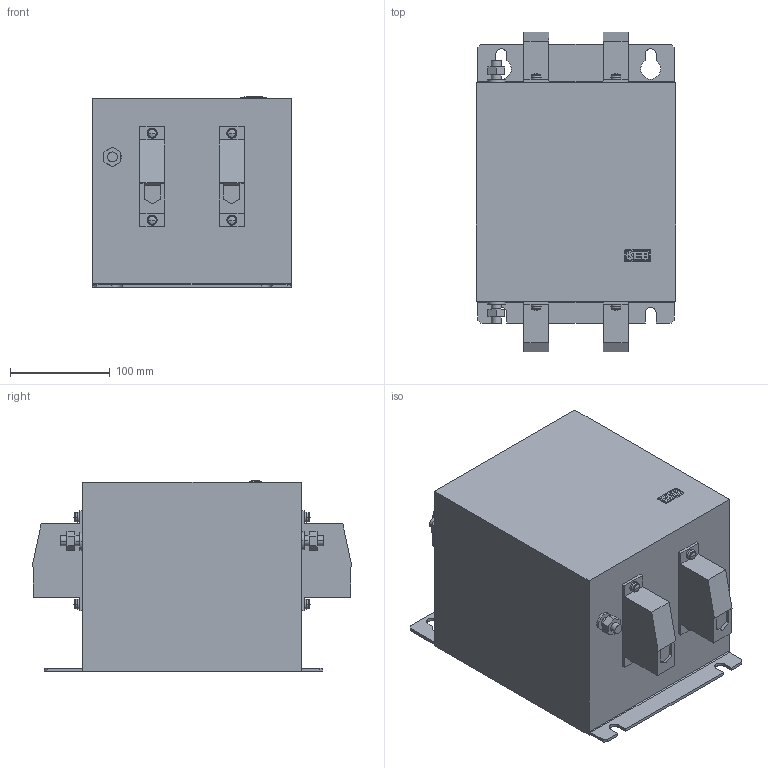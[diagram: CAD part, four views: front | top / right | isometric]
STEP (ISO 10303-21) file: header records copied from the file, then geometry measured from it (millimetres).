
FILE_DESCRIPTION (( 'STEP AP214' ), '1' );
FILE_NAME ('00E6X07-0024.STEP', '2023-07-10T13:16:36', ( '' ), ( '' ), 'SwSTEP 2.0', 'SolidWorks 2022', '' );
FILE_SCHEMA (( 'AUTOMOTIVE_DESIGN' ));
Length unit declared in the file: millimetre
Products named in the file (1): 00E6X07-0024
Bounding box: 200 x 321.33 x 191.52 mm (x, y, z)
Volume: 8758276.7 mm3; surface area: 312126.8 mm2
Topology: 1 solids, 1 shells, 256 faces, 639 edges, 410 vertices
Faces by surface type: plane 146, cylinder 49, cone 16, torus 16, sphere 16, bspline 13
Entity records: 8490 total; most frequent: CARTESIAN_POINT 2199, ORIENTED_EDGE 1278, DIRECTION 1189, EDGE_CURVE 639, VERTEX_POINT 410, VECTOR 397, LINE 397, AXIS2_PLACEMENT_3D 396
